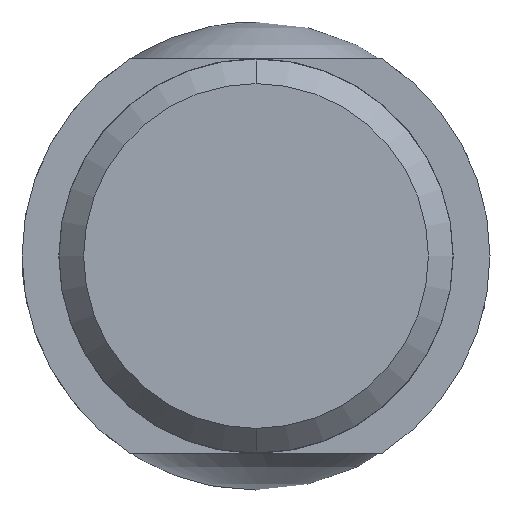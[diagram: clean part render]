
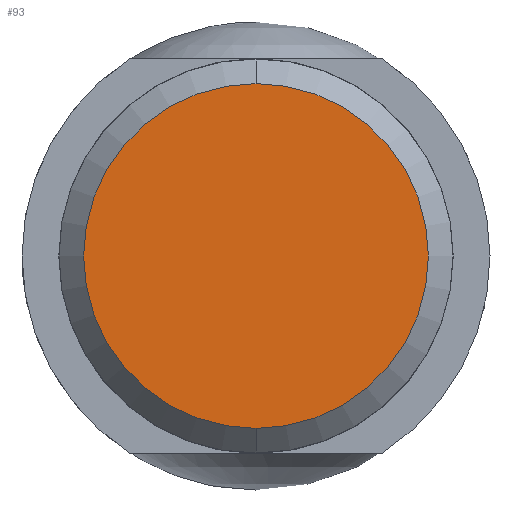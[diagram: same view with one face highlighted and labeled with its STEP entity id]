
A CAD part, front view. The second image highlights one B-rep face of the part: STEP entity #93.
In plain terms, the highlighted planar face has unit normal (0, -1, 0).
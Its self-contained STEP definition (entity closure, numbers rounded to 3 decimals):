
#88 = ORIENTED_EDGE ( 'NONE', *, *, #95, .T. ) ;
#93 = ADVANCED_FACE ( 'NONE', ( #470 ), #469, .F. ) ;
#95 = EDGE_CURVE ( 'NONE', #151, #150, #284, .T. ) ;
#112 = EDGE_LOOP ( 'NONE', ( #88, #218 ) ) ;
#129 = EDGE_CURVE ( 'NONE', #150, #151, #191, .T. ) ;
#150 = VERTEX_POINT ( 'NONE', #527 ) ;
#151 = VERTEX_POINT ( 'NONE', #526 ) ;
#187 = DIRECTION ( 'NONE',  ( 0., 0., 1. ) ) ;
#188 = DIRECTION ( 'NONE',  ( 0., -1., 0. ) ) ;
#189 = CARTESIAN_POINT ( 'NONE',  ( 0., -28., 0. ) ) ;
#190 = AXIS2_PLACEMENT_3D ( 'NONE', #189, #188, #187 ) ;
#191 = CIRCLE ( 'NONE', #190, 7. ) ;
#218 = ORIENTED_EDGE ( 'NONE', *, *, #129, .T. ) ;
#280 = DIRECTION ( 'NONE',  ( 0., 0., 1. ) ) ;
#281 = DIRECTION ( 'NONE',  ( 0., -1., 0. ) ) ;
#282 = CARTESIAN_POINT ( 'NONE',  ( 0., -28., 0. ) ) ;
#283 = AXIS2_PLACEMENT_3D ( 'NONE', #282, #281, #280 ) ;
#284 = CIRCLE ( 'NONE', #283, 7. ) ;
#460 = DIRECTION ( 'NONE',  ( 0., 0., 1. ) ) ;
#461 = DIRECTION ( 'NONE',  ( 0., 1., 0. ) ) ;
#462 = CARTESIAN_POINT ( 'NONE',  ( 0., -28., 0. ) ) ;
#463 = AXIS2_PLACEMENT_3D ( 'NONE', #462, #461, #460 ) ;
#469 = PLANE ( 'NONE',  #463 ) ;
#470 = FACE_OUTER_BOUND ( 'NONE', #112, .T. ) ;
#526 = CARTESIAN_POINT ( 'NONE',  ( 0., -28., 7. ) ) ;
#527 = CARTESIAN_POINT ( 'NONE',  ( 0., -28., -7. ) ) ;
